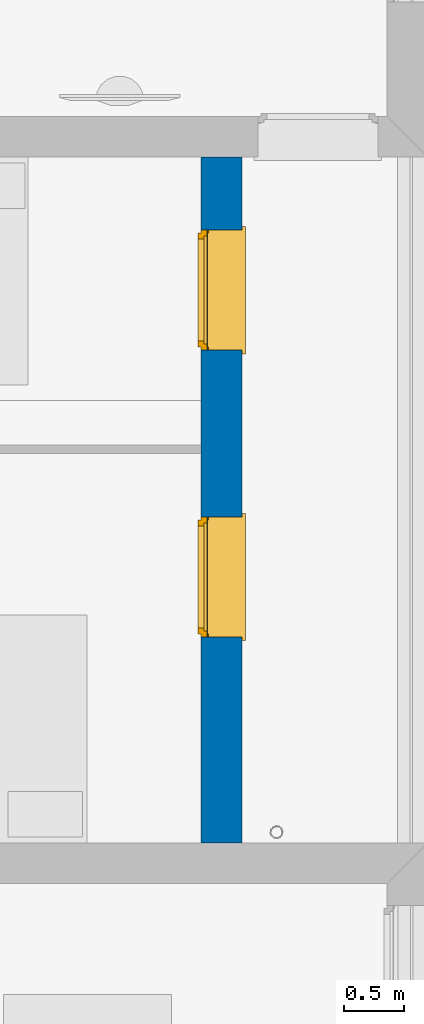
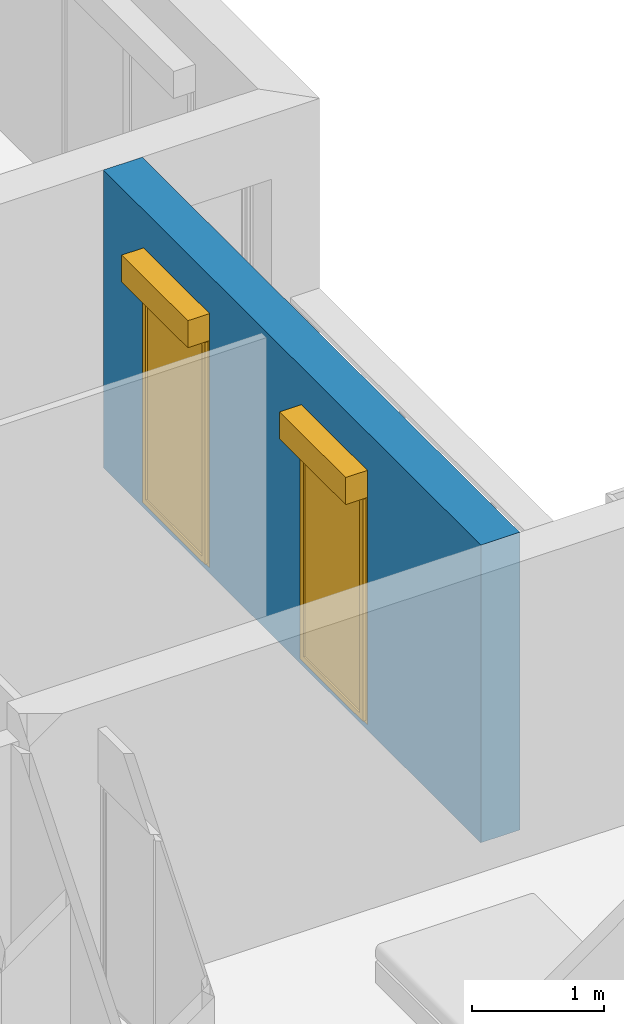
# One storey, part 43 of 171: 2 windows, 1 wall, 2 openings.
"""IFC2X3 building model written with IfcOpenShell, lengths in millimetres."""

from ifc_helpers import new_model, entity, si_unit, converted_unit, derived_unit, money_unit, direction, frame, origin_with_axes, place, context, subcontext, project, spatial, polyline, outline, extrude, open_shell, faceted_brep, surface_model, source, transform, mapped, material, layer, layer_set, layer_usage, type_object, element, fill, save


model = new_model("IFC2X3")

# Units and contexts
model_context = context("Model", 3, precision=0.01, world=origin_with_axes(), true_north=direction((0.0, 1.0)))
body_context = subcontext(model_context, "Body", "Model", "MODEL_VIEW")
ifc_project = project(units=[si_unit("LENGTHUNIT", "METRE", prefix="MILLI"), si_unit("AREAUNIT", "SQUARE_METRE"), si_unit("VOLUMEUNIT", "CUBIC_METRE"), converted_unit("PLANEANGLEUNIT", "DEGREE", entity("IfcPlaneAngleMeasure", 0.0174532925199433), si_unit("PLANEANGLEUNIT", "RADIAN"), dimensions=[0, 0, 0, 0, 0, 0, 0]), money_unit("USD"), converted_unit("TIMEUNIT", "Year", entity("IfcTimeMeasure", 31557600.0), si_unit("TIMEUNIT", "SECOND"), dimensions=[0, 0, 1, 0, 0, 0, 0]), si_unit("MASSUNIT", "GRAM", prefix="KILO"), si_unit("THERMODYNAMICTEMPERATUREUNIT", "DEGREE_CELSIUS"), si_unit("LUMINOUSINTENSITYUNIT", "LUMEN"), si_unit("ENERGYUNIT", "JOULE", prefix="MEGA"), derived_unit("THERMALCONDUCTANCEUNIT", [(si_unit("POWERUNIT", "WATT"), 1), (si_unit("LENGTHUNIT", "METRE"), -1), (si_unit("THERMODYNAMICTEMPERATUREUNIT", "KELVIN"), -1)]), derived_unit("SPECIFICHEATCAPACITYUNIT", [(si_unit("ENERGYUNIT", "JOULE"), 1), (si_unit("MASSUNIT", "GRAM", prefix="KILO"), -1), (si_unit("THERMODYNAMICTEMPERATUREUNIT", "KELVIN"), -1)]), derived_unit("MASSDENSITYUNIT", [(si_unit("MASSUNIT", "GRAM", prefix="KILO"), 1), (si_unit("VOLUMEUNIT", "CUBIC_METRE"), -1)])], contexts=[model_context])

# Site, building, storey
site_placement = place(None, origin_with_axes())
site = spatial("IfcSite", under=ifc_project, at=site_placement, Name="Site", CompositionType="ELEMENT")
building_placement = place(site_placement, origin_with_axes())
building = spatial("IfcBuilding", under=site, at=building_placement, Name="Bâtiment", CompositionType="ELEMENT")
storey_placement = place(building_placement, frame((0.0, 0.0, 3000.0), z_axis=(0.0, 0.0, 1.0), x_axis=(1.0, 0.0, 0.0)))
storey = spatial("IfcBuildingStorey", under=building, at=storey_placement, Name="rdc", CompositionType="ELEMENT", Elevation=3000.0)

# Wall, openings, windows
ifc_material_1 = material(Name="Parpaing 312445824")
ifc_layer_1 = layer(ifc_material_1, 180.0, ventilated="UNKNOWN")
ifc_material_2 = material(Name="Isolant styromousse 301821074")
ifc_layer_2 = layer(ifc_material_2, 160.0, ventilated="UNKNOWN")
ifc_layer_set = layer_set([ifc_layer_1, ifc_layer_2], Name="isol int 18+16 0018356637")
ifc_layer_usage = layer_usage(ifc_layer_set, "AXIS2", "POSITIVE", 0.0)
wall_type = type_object("IfcWallType", Name="isol int 18+16 0018356637 340", PredefinedType="NOTDEFINED")
wall_placement = place(storey_placement, frame((2232806.658096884, -646738.4413060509, 0.0), z_axis=(0.0, 0.0, 1.0), x_axis=(3.063293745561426e-10, 1.0, 0.0)))
wall = element("IfcWallStandardCase", 1, at=wall_placement, inside=storey, type_object=wall_type, material=ifc_layer_usage, Name="Mur-144", context=body_context, shape_type="SweptSolid", body=[
    extrude(outline(polyline([(6.286597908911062e-07, 0.0), (5713.115767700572, 0.0), (5713.11576759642, 340.0000000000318), (6.624247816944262e-07, 340.0000000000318), (6.286597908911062e-07, 0.0)])), origin_with_axes(), (0.0, 0.0, 1.0), 2750.0),
])
opening_1_placement = place(wall_placement, frame((2215.842811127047, -2.273736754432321e-10, 49.99999999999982), z_axis=(0.0, 0.0, 1.0), x_axis=(1.0, 0.0, 0.0)))
opening_1 = element("IfcOpeningElement", 2, at=opening_1_placement, cuts=wall, Name="Fen-134", context=body_context, shape_type="Brep", body=[
    faceted_brep([(499.9999999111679, 290.0000008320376, 2100.0), (499.9999999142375, 280.0000008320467, 2100.0), (500.0000000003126, -1.000000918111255, 2100.0), (500.0000000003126, -1.000000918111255, 0.0), (499.9999999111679, 290.0000008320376, 0.0), (499.9999998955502, 341.0000008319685, 2100.0), (499.9999998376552, 530.0000008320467, 2100.0), (499.9999998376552, 530.0000008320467, 2350.0), (499.9999999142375, 280.0000008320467, 2350.0), (-500.0000000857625, 280.0000005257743, 2100.0), (-499.9999999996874, -1.000001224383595, 2100.0), (-499.9999999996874, -1.000001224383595, 0.0), (-500.0000000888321, 290.0000005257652, 0.0), (-500.0000001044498, 341.0000005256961, 0.0), (499.9999998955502, 341.0000008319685, 0.0), (-500.0000001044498, 341.0000005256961, 2100.0), (-500.0000001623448, 530.0000005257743, 2100.0), (-500.0000001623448, 530.0000005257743, 2350.0), (-500.0000000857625, 280.0000005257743, 2350.0), (-500.0000000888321, 290.0000005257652, 2100.0)], [[[0, 1, 2, 3, 4]], [[1, 0, 5, 6, 7, 8]], [[1, 9, 10, 2]], [[10, 11, 3, 2]], [[4, 3, 11, 12, 13, 14]], [[5, 0, 4, 14]], [[5, 15, 16, 6]], [[7, 6, 16, 17]], [[8, 7, 17, 18]], [[9, 1, 8, 18]], [[9, 19, 12, 11, 10]], [[19, 15, 13, 12]], [[15, 5, 14, 13]], [[19, 9, 18, 17, 16, 15]]]),
])
opening_2_placement = place(wall_placement, frame((4604.814315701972, -2.273736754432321e-10, 49.99999999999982), z_axis=(0.0, 0.0, 1.0), x_axis=(1.0, 0.0, 0.0)))
opening_2 = element("IfcOpeningElement", 3, at=opening_2_placement, cuts=wall, Name="Fen-134", context=body_context, shape_type="Brep", body=[
    faceted_brep([(499.9999999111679, 290.0000015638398, 2100.0), (499.9999999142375, 280.0000015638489, 2100.0), (500.0000000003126, -1.00000018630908, 2100.0), (500.0000000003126, -1.00000018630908, 0.0), (499.9999999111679, 290.0000015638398, 0.0), (499.9999998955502, 341.0000015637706, 2100.0), (499.9999998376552, 530.0000015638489, 2100.0), (499.9999998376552, 530.0000015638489, 2350.0), (499.9999999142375, 280.0000015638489, 2350.0), (-500.0000000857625, 280.0000012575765, 2100.0), (-499.9999999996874, -1.000000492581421, 2100.0), (-499.9999999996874, -1.000000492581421, 0.0), (-500.0000000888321, 290.0000012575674, 0.0), (-500.0000001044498, 341.0000012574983, 0.0), (499.9999998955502, 341.0000015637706, 0.0), (-500.0000001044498, 341.0000012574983, 2100.0), (-500.0000001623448, 530.0000012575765, 2100.0), (-500.0000001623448, 530.0000012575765, 2350.0), (-500.0000000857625, 280.0000012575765, 2350.0), (-500.0000000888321, 290.0000012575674, 2100.0)], [[[0, 1, 2, 3, 4]], [[1, 0, 5, 6, 7, 8]], [[1, 9, 10, 2]], [[10, 11, 3, 2]], [[4, 3, 11, 12, 13, 14]], [[5, 0, 4, 14]], [[5, 15, 16, 6]], [[7, 6, 16, 17]], [[8, 7, 17, 18]], [[9, 1, 8, 18]], [[9, 19, 12, 11, 10]], [[19, 15, 13, 12]], [[15, 5, 14, 13]], [[19, 9, 18, 17, 16, 15]]]),
])
window_style = type_object("IfcWindowStyle", Name="Fenêtre 27", ConstructionType="NOTDEFINED", OperationType="SINGLE_PANEL", ParameterTakesPrecedence=False, Sizeable=False)
shared_shape = source(origin_with_axes(), body_context, "Body", "SurfaceModel", [
    surface_model("IfcShellBasedSurfaceModel", [(500.0, -51.00000000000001, 40.00000000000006), (500.0, -51.00000000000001, 50.00000000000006), (-500.0, -51.00000000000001, 50.0), (-500.0, -51.00000000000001, 40.0), (530.0, -369.9999999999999, 28.96551724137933), (530.0, -339.9999999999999, 30.00324289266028), (500.0, -339.9999999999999, 30.00324289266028), (-500.0, -339.9999999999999, 30.00324289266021), (-530.0, -339.9999999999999, 30.00324289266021), (-530.0, -369.9999999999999, 28.96551724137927), (530.0, -369.9999999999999, 8.96551724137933), (-530.0, -369.9999999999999, 8.965517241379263), (530.0, -359.9999999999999, 18.96551724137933), (-530.0, -359.9999999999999, 18.96551724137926)], [open_shell([[[0, 1, 2, 3]], [[4, 5, 6, 0, 3, 7, 8, 9]], [[10, 4, 9, 11]], [[12, 10, 11, 13]]])]),
    faceted_brep([(-500.0, -59.99999999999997, 2350.0), (-497.0, -59.99999999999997, 2350.0), (-497.0, 190.0, 2350.0), (-500.0, 190.0, 2350.0), (-500.0, -59.99999999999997, 2100.0), (-497.0, -59.99999999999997, 2100.0), (-497.0, 190.0, 2100.0), (-500.0, 190.0, 2100.0)], [[[0, 1, 2, 3]], [[4, 5, 1, 0]], [[1, 5, 6, 2]], [[3, 2, 6, 7]], [[0, 3, 7, 4]], [[7, 6, 5, 4]]]),
    faceted_brep([(497.0, -59.99999999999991, 2350.0), (500.0, -59.99999999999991, 2350.0), (500.0, 190.0000000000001, 2350.0), (497.0, 190.0000000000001, 2350.0), (497.0, -59.99999999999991, 2100.0), (500.0, -59.99999999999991, 2100.0), (500.0, 190.0000000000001, 2100.0), (497.0, 190.0000000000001, 2100.0)], [[[0, 1, 2, 3]], [[4, 5, 1, 0]], [[1, 5, 6, 2]], [[3, 2, 6, 7]], [[0, 3, 7, 4]], [[7, 6, 5, 4]]]),
    faceted_brep([(-497.0, -60.0, 2100.0), (497.0, -59.99999999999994, 2100.0), (497.0, -59.99999999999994, 2350.0), (-497.0, -60.0, 2350.0), (-497.0, -56.99999999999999, 2100.0), (497.0, -56.99999999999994, 2100.0), (497.0, -56.99999999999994, 2347.0), (497.0, 187.0000000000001, 2347.0), (497.0, 187.0000000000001, 2103.0), (497.0, -37.99999999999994, 2103.0), (497.0, -37.99999999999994, 2100.0), (497.0, 190.0000000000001, 2100.0), (497.0, 190.0000000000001, 2350.0), (-497.0, 190.0, 2350.0), (-497.0, 190.0, 2100.0), (-497.0, -37.99999999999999, 2100.0), (-497.0, -37.99999999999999, 2103.0), (-497.0, 187.0, 2103.0), (-497.0, 187.0, 2347.0), (-497.0, -56.99999999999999, 2347.0)], [[[0, 1, 2, 3]], [[4, 5, 1, 0]], [[1, 5, 6, 7, 8, 9, 10, 11, 12, 2]], [[3, 2, 12, 13]], [[0, 3, 13, 14, 15, 16, 17, 18, 19, 4]], [[19, 6, 5, 4]], [[18, 7, 6, 19]], [[17, 8, 7, 18]], [[16, 9, 8, 17]], [[15, 10, 9, 16]], [[14, 11, 10, 15]], [[13, 12, 11, 14]]]),
    faceted_brep([(-494.0, -40.37442957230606, 2206.419644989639), (-494.0, -41.99999999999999, 2225.0), (-494.0, -40.37442957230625, 2243.580355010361), (-494.0, -35.54711042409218, 2261.596155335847), (-494.0, -27.66471820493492, 2278.5), (-494.0, -16.96675541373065, 2293.77827423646), (-494.0, -3.778274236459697, 2306.966755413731), (-494.0, 11.5, 2317.664718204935), (-494.0, 28.40384466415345, 2325.547110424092), (-494.0, 46.41964498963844, 2330.374429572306), (-494.0, 64.99999999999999, 2332.0), (-494.0, 83.58035501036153, 2330.374429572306), (-494.0, 101.5961553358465, 2325.547110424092), (-494.0, 118.5, 2317.664718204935), (-494.0, 133.7782742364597, 2306.966755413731), (-494.0, 146.9667554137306, 2293.77827423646), (-494.0, 157.6647182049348, 2278.5), (-494.0, 165.5471104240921, 2261.596155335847), (-494.0, 170.3744295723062, 2243.580355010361), (-494.0, 171.9999999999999, 2225.0), (-494.0, 170.3744295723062, 2206.419644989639), (-494.0, 165.5471104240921, 2188.403844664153), (-494.0, 157.6647182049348, 2171.5), (-494.0, 146.9667554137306, 2156.22172576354), (-494.0, 133.7782742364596, 2143.03324458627), (-494.0, 118.4999999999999, 2132.335281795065), (-494.0, 101.5961553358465, 2124.452889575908), (-494.0, 83.58035501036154, 2119.625570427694), (-494.0, 65.00000000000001, 2118.0), (-494.0, 46.4196449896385, 2119.625570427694), (-494.0, 28.40384466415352, 2124.452889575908), (-494.0, 11.50000000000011, 2132.335281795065), (-494.0, -3.778274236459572, 2143.03324458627), (-494.0, -16.9667554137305, 2156.22172576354), (-494.0, -27.66471820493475, 2171.5), (-494.0, -35.54711042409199, 2188.403844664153), (494.0, -40.374429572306, 2206.419644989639), (494.0, -41.99999999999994, 2225.0), (494.0, -40.37442957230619, 2243.580355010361), (494.0, -35.54711042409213, 2261.596155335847), (494.0, -27.66471820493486, 2278.5), (494.0, -16.96675541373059, 2293.77827423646), (494.0, -3.778274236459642, 2306.966755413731), (494.0, 11.50000000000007, 2317.664718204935), (494.0, 28.40384466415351, 2325.547110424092), (494.0, 46.41964498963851, 2330.374429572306), (494.0, 65.00000000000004, 2332.0), (494.0, 83.58035501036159, 2330.374429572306), (494.0, 101.5961553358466, 2325.547110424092), (494.0, 118.5, 2317.664718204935), (494.0, 133.7782742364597, 2306.966755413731), (494.0, 146.9667554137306, 2293.77827423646), (494.0, 157.6647182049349, 2278.5), (494.0, 165.5471104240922, 2261.596155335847), (494.0, 170.3744295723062, 2243.580355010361), (494.0, 172.0, 2225.0), (494.0, 170.3744295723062, 2206.419644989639), (494.0, 165.5471104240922, 2188.403844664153), (494.0, 157.6647182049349, 2171.5), (494.0, 146.9667554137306, 2156.22172576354), (494.0, 133.7782742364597, 2143.03324458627), (494.0, 118.5, 2132.335281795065), (494.0, 101.5961553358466, 2124.452889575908), (494.0, 83.5803550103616, 2119.625570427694), (494.0, 65.00000000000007, 2118.0), (494.0, 46.41964498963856, 2119.625570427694), (494.0, 28.40384466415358, 2124.452889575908), (494.0, 11.50000000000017, 2132.335281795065), (494.0, -3.778274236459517, 2143.03324458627), (494.0, -16.96675541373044, 2156.22172576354), (494.0, -27.6647182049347, 2171.5), (494.0, -35.54711042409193, 2188.403844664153)], [[[0, 1, 2, 3, 4, 5, 6, 7, 8, 9, 10, 11, 12, 13, 14, 15, 16, 17, 18, 19, 20, 21, 22, 23, 24, 25, 26, 27, 28, 29, 30, 31, 32, 33, 34, 35]], [[0, 36, 37, 1]], [[1, 37, 38, 2]], [[2, 38, 39, 3]], [[3, 39, 40, 4]], [[4, 40, 41, 5]], [[5, 41, 42, 6]], [[6, 42, 43, 7]], [[7, 43, 44, 8]], [[8, 44, 45, 9]], [[9, 45, 46, 10]], [[10, 46, 47, 11]], [[11, 47, 48, 12]], [[12, 48, 49, 13]], [[13, 49, 50, 14]], [[14, 50, 51, 15]], [[15, 51, 52, 16]], [[16, 52, 53, 17]], [[17, 53, 54, 18]], [[18, 54, 55, 19]], [[19, 55, 56, 20]], [[20, 56, 57, 21]], [[21, 57, 58, 22]], [[22, 58, 59, 23]], [[23, 59, 60, 24]], [[24, 60, 61, 25]], [[25, 61, 62, 26]], [[26, 62, 63, 27]], [[27, 63, 64, 28]], [[28, 64, 65, 29]], [[29, 65, 66, 30]], [[30, 66, 67, 31]], [[31, 67, 68, 32]], [[32, 68, 69, 33]], [[33, 69, 70, 34]], [[34, 70, 71, 35]], [[35, 71, 36, 0]], [[36, 71, 70, 69, 68, 67, 66, 65, 64, 63, 62, 61, 60, 59, 58, 57, 56, 55, 54, 53, 52, 51, 50, 49, 48, 47, 46, 45, 44, 43, 42, 41, 40, 39, 38, 37]]]),
    faceted_brep([(500.0, -34.99999999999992, 30.0), (500.0, -34.99999999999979, 2100.0), (500.0, -59.99999999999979, 2100.0), (500.0, -59.99999999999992, 30.0), (475.0, -34.99999999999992, 30.0), (475.0, -34.99999999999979, 2100.0), (475.0, -37.99999999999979, 2100.0), (497.0, -37.99999999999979, 2100.0), (497.0, -56.99999999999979, 2100.0), (475.0, -56.99999999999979, 2100.0), (475.0, -59.99999999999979, 2100.0), (475.0, -59.99999999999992, 30.0), (475.0, -56.99999999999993, 30.0), (497.0, -56.99999999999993, 30.0), (497.0, -37.99999999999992, 30.0), (475.0, -37.99999999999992, 30.0)], [[[0, 1, 2, 3]], [[4, 5, 1, 0]], [[1, 5, 6, 7, 8, 9, 10, 2]], [[3, 2, 10, 11]], [[0, 3, 11, 12, 13, 14, 15, 4]], [[15, 6, 5, 4]], [[14, 7, 6, 15]], [[13, 8, 7, 14]], [[12, 9, 8, 13]], [[11, 10, 9, 12]]]),
    faceted_brep([(-500.0, -34.99999999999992, 30.0), (-500.0, -59.99999999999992, 30.0), (-500.0, -59.99999999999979, 2100.0), (-500.0, -34.99999999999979, 2100.0), (-475.0, -34.99999999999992, 30.0), (-475.0, -37.99999999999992, 30.0), (-497.0, -37.99999999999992, 30.0), (-497.0, -56.99999999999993, 30.0), (-475.0, -56.99999999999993, 30.0), (-475.0, -59.99999999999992, 30.0), (-475.0, -59.99999999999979, 2100.0), (-475.0, -56.99999999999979, 2100.0), (-497.0, -56.99999999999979, 2100.0), (-497.0, -37.99999999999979, 2100.0), (-475.0, -37.99999999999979, 2100.0), (-475.0, -34.99999999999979, 2100.0)], [[[0, 1, 2, 3]], [[0, 4, 5, 6, 7, 8, 9, 1]], [[1, 9, 10, 2]], [[3, 2, 10, 11, 12, 13, 14, 15]], [[4, 0, 3, 15]], [[5, 4, 15, 14]], [[6, 5, 14, 13]], [[7, 6, 13, 12]], [[8, 7, 12, 11]], [[9, 8, 11, 10]]]),
    faceted_brep([(497.0, -46.66666666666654, 2225.0), (497.0, -46.66666666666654, 2216.666666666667), (-497.0, -46.6666666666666, 2216.666666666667), (-497.0, -46.6666666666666, 2225.0), (497.0, -51.66666666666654, 2225.0), (497.0, -51.66666666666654, 2216.666666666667), (497.0, -49.99999999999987, 2200.0), (497.0, -44.99999999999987, 2200.0), (-497.0, -44.99999999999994, 2200.0), (-497.0, -49.99999999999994, 2200.0), (-497.0, -51.6666666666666, 2216.666666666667), (-497.0, -51.6666666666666, 2225.0)], [[[0, 1, 2, 3]], [[4, 5, 6, 7, 1, 0]], [[2, 1, 7, 8]], [[3, 2, 8, 9, 10, 11]], [[3, 11, 4, 0]], [[10, 5, 4, 11]], [[9, 6, 5, 10]], [[8, 7, 6, 9]]]),
    faceted_brep([(-497.0, -44.99999999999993, 2200.0), (497.0, -44.99999999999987, 2200.0), (497.0, -46.66666666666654, 2183.333333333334), (-497.0, -46.6666666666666, 2183.333333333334), (-497.0, -49.99999999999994, 2200.0), (497.0, -49.99999999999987, 2200.0), (497.0, -51.66666666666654, 2183.333333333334), (497.0, -51.66666666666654, 2166.666666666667), (497.0, -49.99999999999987, 2150.000000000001), (497.0, -44.99999999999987, 2150.000000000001), (497.0, -46.66666666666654, 2166.666666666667), (-497.0, -46.6666666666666, 2166.666666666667), (-497.0, -44.99999999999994, 2150.000000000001), (-497.0, -49.99999999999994, 2150.000000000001), (-497.0, -51.6666666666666, 2166.666666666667), (-497.0, -51.6666666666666, 2183.333333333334)], [[[0, 1, 2, 3]], [[4, 5, 1, 0]], [[1, 5, 6, 7, 8, 9, 10, 2]], [[3, 2, 10, 11]], [[0, 3, 11, 12, 13, 14, 15, 4]], [[15, 6, 5, 4]], [[14, 7, 6, 15]], [[13, 8, 7, 14]], [[12, 9, 8, 13]], [[11, 10, 9, 12]]]),
    faceted_brep([(-497.0, -44.99999999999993, 2150.000000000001), (497.0, -44.99999999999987, 2150.000000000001), (497.0, -46.66666666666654, 2133.333333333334), (-497.0, -46.6666666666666, 2133.333333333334), (-497.0, -49.99999999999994, 2150.000000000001), (497.0, -49.99999999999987, 2150.000000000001), (497.0, -51.66666666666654, 2133.333333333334), (497.0, -51.66666666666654, 2116.666666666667), (497.0, -49.99999999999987, 2100.000000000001), (497.0, -44.99999999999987, 2100.000000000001), (497.0, -46.66666666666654, 2116.666666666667), (-497.0, -46.6666666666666, 2116.666666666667), (-497.0, -44.99999999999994, 2100.000000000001), (-497.0, -49.99999999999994, 2100.000000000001), (-497.0, -51.6666666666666, 2116.666666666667), (-497.0, -51.6666666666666, 2133.333333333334)], [[[0, 1, 2, 3]], [[4, 5, 1, 0]], [[1, 5, 6, 7, 8, 9, 10, 2]], [[3, 2, 10, 11]], [[0, 3, 11, 12, 13, 14, 15, 4]], [[15, 6, 5, 4]], [[14, 7, 6, 15]], [[13, 8, 7, 14]], [[12, 9, 8, 13]], [[11, 10, 9, 12]]]),
    faceted_brep([(-475.0000000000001, 0.0, 2050.0), (-500.0, 0.0, 2050.0), (-500.0, -50.00000000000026, 2050.0), (-450.0, -50.00000000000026, 2050.0), (-450.0, -25.00000000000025, 2050.0), (-475.0000000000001, -25.00000000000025, 2050.0), (-475.0000000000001, 0.0, 50.00000000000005), (-500.0, 0.0, 50.00000000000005), (-500.0, -50.00000000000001, 50.00000000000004), (-450.0, -50.00000000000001, 50.00000000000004), (-450.0, -25.00000000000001, 50.00000000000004), (-475.0000000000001, -25.00000000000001, 50.00000000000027)], [[[0, 1, 2, 3, 4, 5]], [[6, 7, 1, 0]], [[1, 7, 8, 2]], [[2, 8, 9, 3]], [[4, 3, 9, 10]], [[10, 11, 5, 4]], [[5, 11, 6, 0]], [[11, 10, 9, 8, 7, 6]]]),
    faceted_brep([(450.0, -25.00000000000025, 2050.0), (450.0, -50.00000000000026, 2050.0), (500.0, -50.00000000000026, 2050.0), (500.0, 0.0, 2050.0), (475.0000000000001, 0.0, 2050.0), (475.0000000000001, -25.00000000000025, 2050.0), (450.0, -25.00000000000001, 50.00000000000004), (450.0, -50.00000000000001, 50.00000000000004), (500.0, -50.00000000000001, 50.00000000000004), (500.0, 0.0, 50.00000000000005), (475.0000000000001, 0.0, 50.00000000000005), (475.0000000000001, -25.00000000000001, 50.00000000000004)], [[[0, 1, 2, 3, 4, 5]], [[6, 7, 1, 0]], [[8, 2, 1, 7]], [[9, 3, 2, 8]], [[4, 3, 9, 10]], [[10, 11, 5, 4]], [[5, 11, 6, 0]], [[11, 10, 9, 8, 7, 6]]]),
    faceted_brep([(450.0, -25.00000000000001, 50.00000000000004), (450.0, -50.00000000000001, 50.00000000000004), (500.0, -50.00000000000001, 50.00000000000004), (500.0, 0.0, 50.00000000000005), (475.0000000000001, 0.0, 50.00000000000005), (475.0000000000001, -25.00000000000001, 50.00000000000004), (-450.0, -25.00000000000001, 50.00000000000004), (-450.0, -50.00000000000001, 50.00000000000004), (-500.0, -50.00000000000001, 50.00000000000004), (-500.0, -50.0, 0.0), (500.0, -50.0, 0.0), (500.0, 0.0, 0.0), (-475.0000000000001, 0.0, 24.99999999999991), (475.0000000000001, 0.0, 24.99999999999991), (-500.0, 0.0, 0.0), (-500.0, 0.0, 50.00000000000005), (-475.0000000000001, 0.0, 50.00000000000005), (475.0000000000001, -25.0, 24.99999999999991), (-475.0000000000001, -25.0, 24.99999999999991), (-475.0000000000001, -25.00000000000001, 50.00000000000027)], [[[0, 1, 2, 3, 4, 5]], [[6, 7, 1, 0]], [[8, 9, 10, 2, 1, 7]], [[11, 3, 2, 10]], [[12, 13, 4, 3, 11, 14, 15, 16]], [[13, 17, 5, 4]], [[5, 17, 18, 19, 6, 0]], [[19, 16, 15, 8, 7, 6]], [[15, 14, 9, 8]], [[14, 11, 10, 9]], [[12, 18, 17, 13]], [[19, 18, 12, 16]]]),
    faceted_brep([(-475.0000000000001, 0.0, 2050.0), (-500.0, 0.0, 2050.0), (-500.0, 0.0, 2100.0), (500.0, 0.0, 2100.0), (500.0, 0.0, 2050.0), (475.0000000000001, 0.0, 2050.0), (475.0000000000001, 0.0, 2075.0), (-475.0000000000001, 0.0, 2075.0), (-475.0000000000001, -25.00000000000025, 2050.0), (-450.0, -25.00000000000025, 2050.0), (-450.0, -50.00000000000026, 2050.0), (-500.0, -50.00000000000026, 2050.0), (-500.0, -50.00000000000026, 2100.0), (500.0, -50.00000000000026, 2100.0), (500.0, -50.00000000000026, 2050.0), (475.0000000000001, -25.00000000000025, 2050.0), (450.0, -50.00000000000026, 2050.0), (450.0, -25.00000000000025, 2050.0), (475.0000000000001, -25.00000000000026, 2075.0), (-475.0000000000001, -25.00000000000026, 2075.0)], [[[0, 1, 2, 3, 4, 5, 6, 7]], [[8, 9, 10, 11, 1, 0]], [[2, 1, 11, 12]], [[3, 2, 12, 13]], [[4, 3, 13, 14]], [[15, 5, 4, 14, 16, 17]], [[5, 15, 18, 6]], [[6, 18, 19, 7]], [[7, 19, 8, 0]], [[17, 9, 8, 19, 18, 15]], [[17, 16, 10, 9]], [[14, 13, 12, 11, 10, 16]]]),
    faceted_brep([(-425.0000000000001, -25.00000000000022, 2025.0), (-425.0000000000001, 24.99999999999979, 2025.0), (-475.0000000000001, 24.99999999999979, 2025.0), (-475.0000000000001, -25.00000000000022, 2025.0), (-425.0000000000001, -24.99999999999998, 75.00000000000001), (-425.0000000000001, 25.00000000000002, 75.00000000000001), (-475.0000000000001, 25.00000000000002, 75.00000000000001), (-475.0000000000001, -24.99999999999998, 75.00000000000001)], [[[0, 1, 2, 3]], [[4, 5, 1, 0]], [[1, 5, 6, 2]], [[3, 2, 6, 7]], [[0, 3, 7, 4]], [[7, 6, 5, 4]]]),
    faceted_brep([(425.0000000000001, -25.00000000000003, 75.00000000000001), (425.0000000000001, 24.99999999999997, 75.00000000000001), (475.0000000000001, 24.99999999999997, 75.00000000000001), (475.0000000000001, -25.00000000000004, 75.00000000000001), (425.0000000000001, -25.00000000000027, 2025.0), (425.0000000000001, 24.99999999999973, 2025.0), (475.0000000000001, 24.99999999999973, 2025.0), (475.0000000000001, -25.00000000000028, 2025.0)], [[[0, 1, 2, 3]], [[4, 5, 1, 0]], [[1, 5, 6, 2]], [[3, 2, 6, 7]], [[0, 3, 7, 4]], [[7, 6, 5, 4]]]),
    faceted_brep([(475.0000000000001, -25.00000000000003, 25.0), (475.0000000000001, 24.99999999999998, 25.00000000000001), (475.0000000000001, 24.99999999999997, 75.00000000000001), (475.0000000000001, -25.00000000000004, 75.00000000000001), (-475.0000000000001, -24.99999999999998, 25.0), (-475.0000000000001, 25.00000000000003, 25.00000000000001), (-475.0000000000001, 25.00000000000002, 75.00000000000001), (-425.0000000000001, 25.00000000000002, 75.00000000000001), (425.0000000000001, 24.99999999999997, 75.00000000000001), (425.0000000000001, -25.00000000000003, 75.00000000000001), (-425.0000000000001, -24.99999999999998, 75.00000000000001), (-475.0000000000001, -24.99999999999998, 75.00000000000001)], [[[0, 1, 2, 3]], [[4, 5, 1, 0]], [[1, 5, 6, 7, 8, 2]], [[3, 2, 8, 9]], [[0, 3, 9, 10, 11, 4]], [[11, 6, 5, 4]], [[10, 7, 6, 11]], [[9, 8, 7, 10]]]),
    faceted_brep([(-475.0000000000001, -25.00000000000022, 2075.0), (-475.0000000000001, 24.99999999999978, 2075.0), (-475.0000000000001, 24.99999999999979, 2025.0), (-475.0000000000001, -25.00000000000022, 2025.0), (475.0000000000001, -25.00000000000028, 2075.0), (475.0000000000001, 24.99999999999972, 2075.0), (475.0000000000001, 24.99999999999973, 2025.0), (425.0000000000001, 24.99999999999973, 2025.0), (-425.0000000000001, 24.99999999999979, 2025.0), (-425.0000000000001, -25.00000000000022, 2025.0), (425.0000000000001, -25.00000000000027, 2025.0), (475.0000000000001, -25.00000000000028, 2025.0)], [[[0, 1, 2, 3]], [[4, 5, 1, 0]], [[1, 5, 6, 7, 8, 2]], [[3, 2, 8, 9]], [[0, 3, 9, 10, 11, 4]], [[11, 6, 5, 4]], [[10, 7, 6, 11]], [[9, 8, 7, 10]]]),
    surface_model("IfcShellBasedSurfaceModel", [(-425.0000000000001, -10.00000000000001, 75.00000000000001), (425.0000000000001, -10.00000000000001, 75.00000000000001), (425.0000000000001, -10.00000000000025, 2025.0), (-425.0000000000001, -10.00000000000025, 2025.0)], [open_shell([[[0, 1, 2, 3]]])]),
    surface_model("IfcShellBasedSurfaceModel", [(-425.0000000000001, 9.999999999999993, 75.00000000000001), (-425.0000000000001, 9.999999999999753, 2025.0), (425.0000000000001, 9.999999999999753, 2025.0), (425.0000000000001, 9.999999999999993, 75.00000000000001)], [open_shell([[[0, 1, 2, 3]]])]),
])
window_1_placement = place(opening_2_placement, frame((-500.0000000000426, -2.273736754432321e-10, 0.0), z_axis=(0.0, 0.0, 1.0), x_axis=(1.0, 0.0, 0.0)))
window_1 = element("IfcWindow", 4, at=window_1_placement, inside=storey, type_object=window_style, Name="Fen-134", OverallHeight=2100.0, OverallWidth=1000.0, context=body_context, shape_type="MappedRepresentation", body=[
    mapped(shared_shape, transform((499.9999998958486, 340.0000014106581, 0.0))),
])
fill(opening_2, window_1)
window_2_placement = place(opening_1_placement, frame((-499.9999999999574, -1.13686837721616e-10, 0.0), z_axis=(0.0, 0.0, 1.0), x_axis=(1.0, 0.0, 0.0)))
window_2 = element("IfcWindow", 5, at=window_2_placement, inside=storey, type_object=window_style, Name="Fen-134", OverallHeight=2100.0, OverallWidth=1000.0, context=body_context, shape_type="MappedRepresentation", body=[
    mapped(shared_shape, transform((499.9999998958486, 340.0000006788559, 0.0))),
])
fill(opening_1, window_2)

save(model, "model.ifc")
